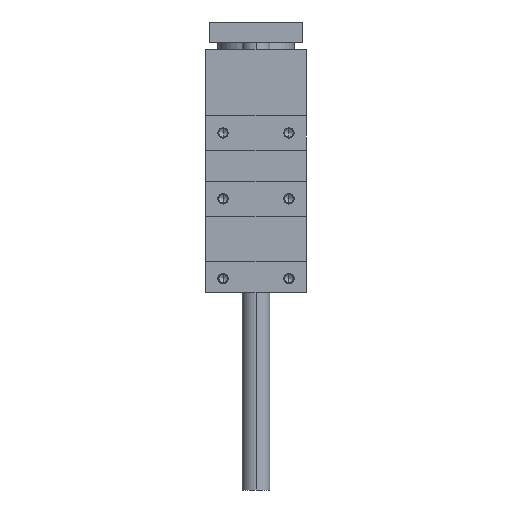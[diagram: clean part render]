
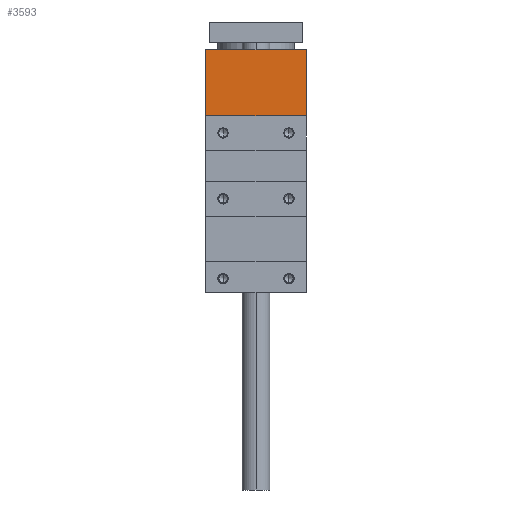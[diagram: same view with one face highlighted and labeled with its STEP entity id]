
A CAD part, left-side view. The second image highlights one B-rep face of the part: STEP entity #3593.
In plain terms, the highlighted planar face has unit normal (-1, 0, 0).
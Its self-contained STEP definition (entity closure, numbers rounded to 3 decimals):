
#1031 = CARTESIAN_POINT ( 'NONE',  ( -57.2, -29., 0. ) ) ;
#1611 = DIRECTION ( 'NONE',  ( 0., -1., 0. ) ) ;
#1800 = PLANE ( 'NONE',  #2614 ) ;
#2292 = CARTESIAN_POINT ( 'NONE',  ( -57.2, 58., 59. ) ) ;
#2347 = EDGE_LOOP ( 'NONE', ( #8467, #5487, #4265, #7360 ) ) ;
#2439 = DIRECTION ( 'NONE',  ( 0., 1., 0. ) ) ;
#2456 = VERTEX_POINT ( 'NONE', #5488 ) ;
#2614 = AXIS2_PLACEMENT_3D ( 'NONE', #7354, #9562, #2439 ) ;
#2810 = LINE ( 'NONE', #2853, #3405 ) ;
#2837 = VERTEX_POINT ( 'NONE', #9313 ) ;
#2853 = CARTESIAN_POINT ( 'NONE',  ( -57.2, 58., 21. ) ) ;
#3059 = CARTESIAN_POINT ( 'NONE',  ( -57.2, 29., 0. ) ) ;
#3089 = VECTOR ( 'NONE', #5469, 1000. ) ;
#3405 = VECTOR ( 'NONE', #6854, 1000. ) ;
#3593 = ADVANCED_FACE ( 'NONE', ( #7126 ), #1800, .F. ) ;
#3688 = VERTEX_POINT ( 'NONE', #5809 ) ;
#3744 = LINE ( 'NONE', #3059, #3089 ) ;
#4265 = ORIENTED_EDGE ( 'NONE', *, *, #7268, .F. ) ;
#5160 = LINE ( 'NONE', #1031, #8389 ) ;
#5469 = DIRECTION ( 'NONE',  ( 0., 0., -1. ) ) ;
#5487 = ORIENTED_EDGE ( 'NONE', *, *, #7314, .T. ) ;
#5488 = CARTESIAN_POINT ( 'NONE',  ( -57.2, -29., 59. ) ) ;
#5809 = CARTESIAN_POINT ( 'NONE',  ( -57.2, 29., 59. ) ) ;
#6385 = VECTOR ( 'NONE', #1611, 1000. ) ;
#6854 = DIRECTION ( 'NONE',  ( 0., -1., 0. ) ) ;
#7126 = FACE_OUTER_BOUND ( 'NONE', #2347, .T. ) ;
#7154 = EDGE_CURVE ( 'NONE', #3688, #2456, #7847, .T. ) ;
#7231 = CARTESIAN_POINT ( 'NONE',  ( -57.2, 29., 21. ) ) ;
#7268 = EDGE_CURVE ( 'NONE', #2456, #2837, #5160, .T. ) ;
#7314 = EDGE_CURVE ( 'NONE', #9944, #2837, #2810, .T. ) ;
#7354 = CARTESIAN_POINT ( 'NONE',  ( -57.2, 58., 21. ) ) ;
#7360 = ORIENTED_EDGE ( 'NONE', *, *, #7154, .F. ) ;
#7847 = LINE ( 'NONE', #2292, #6385 ) ;
#8389 = VECTOR ( 'NONE', #9871, 1000. ) ;
#8467 = ORIENTED_EDGE ( 'NONE', *, *, #10252, .T. ) ;
#9313 = CARTESIAN_POINT ( 'NONE',  ( -57.2, -29., 21. ) ) ;
#9562 = DIRECTION ( 'NONE',  ( 1., 0., 0. ) ) ;
#9871 = DIRECTION ( 'NONE',  ( 0., 0., -1. ) ) ;
#9944 = VERTEX_POINT ( 'NONE', #7231 ) ;
#10252 = EDGE_CURVE ( 'NONE', #3688, #9944, #3744, .T. ) ;
